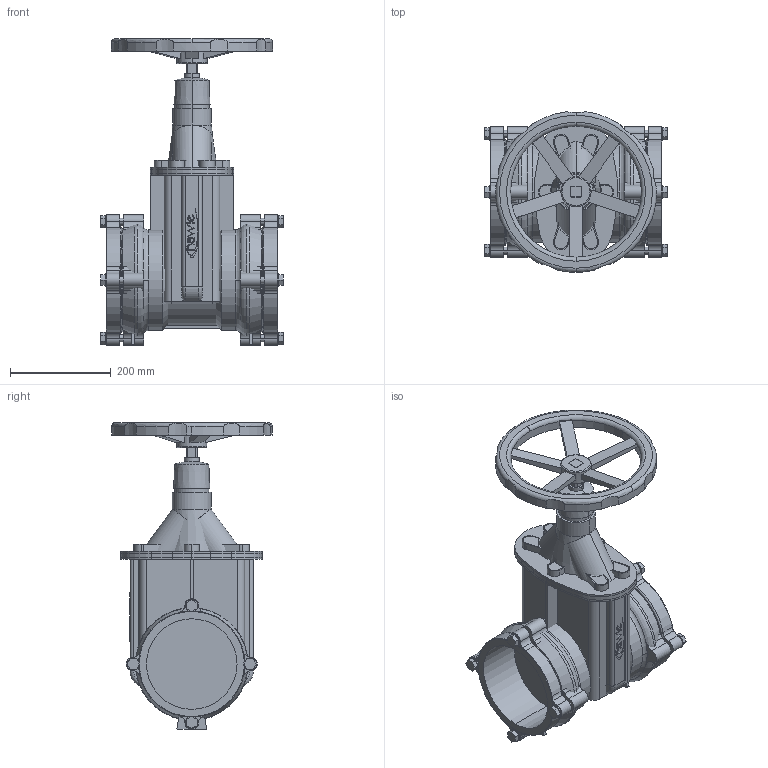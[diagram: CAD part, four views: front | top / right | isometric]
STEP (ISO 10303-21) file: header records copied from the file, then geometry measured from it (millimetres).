
FILE_DESCRIPTION(('STEP AP214'),'1');
FILE_NAME('S:/EK/USER/CAT6/3DHomepage/4040E2/4040E2-PN16-DN150-180-HANDRAD.STP','2012-04-24T11:20:31',(' '),(' '),'Spatial InterOp 3D',' ',' ');
FILE_SCHEMA(('automotive_design'));
Length unit declared in the file: millimetre
Products named in the file (95): 3D-Objekt
Bounding box: 362.6 x 318.96 x 610 mm (x, y, z)
Volume: 15913718.5 mm3; surface area: 1587203.7 mm2
Topology: 95 solids, 95 shells, 824 faces, 1868 edges, 1244 vertices
Faces by surface type: plane 457, cylinder 313, torus 36, cone 14, bspline 4
Entity records: 32457 total; most frequent: DIRECTION 4456, CARTESIAN_POINT 4393, ORIENTED_EDGE 3736, EDGE_CURVE 1868, AXIS2_PLACEMENT_3D 1683, VERTEX_POINT 1244, LINE 1090, VECTOR 1090
